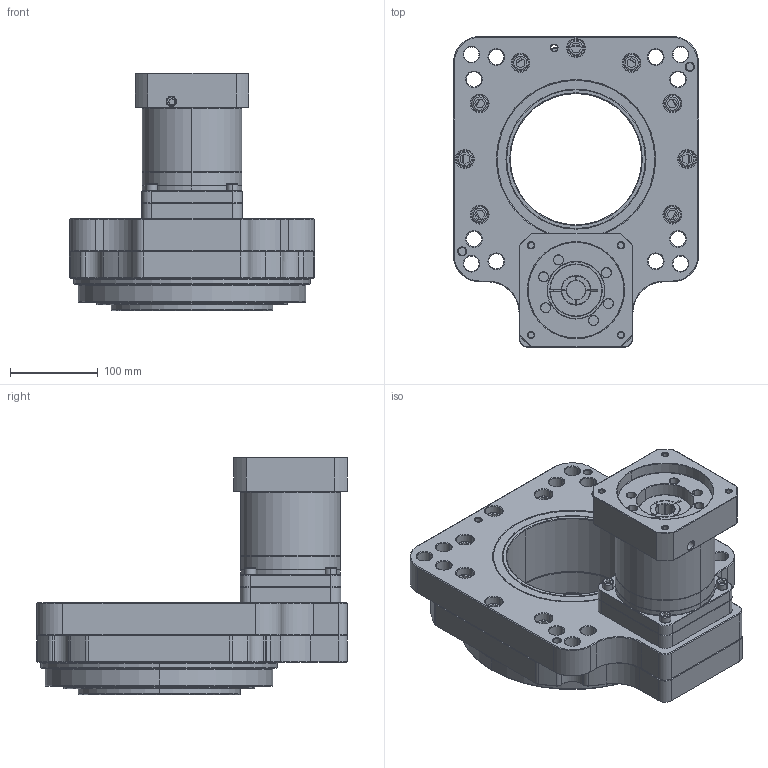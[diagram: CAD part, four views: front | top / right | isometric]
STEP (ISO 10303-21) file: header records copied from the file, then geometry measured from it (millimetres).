
FILE_DESCRIPTION (( 'STEP AP203' ), '1' );
FILE_NAME ('1.STEP', '2022-08-09T05:21:03', ( '' ), ( '' ), 'SwSTEP 2.0', 'SolidWorks 2020', '' );
FILE_SCHEMA (( 'CONFIG_CONTROL_DESIGN' ));
Length unit declared in the file: millimetre
Products named in the file (1): 1
Bounding box: 280 x 355 x 270.95 mm (x, y, z)
Surface area: 602668.3 mm2 (no closed solid volume)
Topology: 0 solids, 88 shells, 1420 faces, 4281 edges, 2884 vertices
Faces by surface type: plane 502, cone 392, cylinder 359, torus 163, bspline 4
Entity records: 49472 total; most frequent: CARTESIAN_POINT 10018, DIRECTION 8979, ORIENTED_EDGE 7031, EDGE_CURVE 4253, AXIS2_PLACEMENT_3D 3423, VERTEX_POINT 2884, VECTOR 2133, LINE 2133
